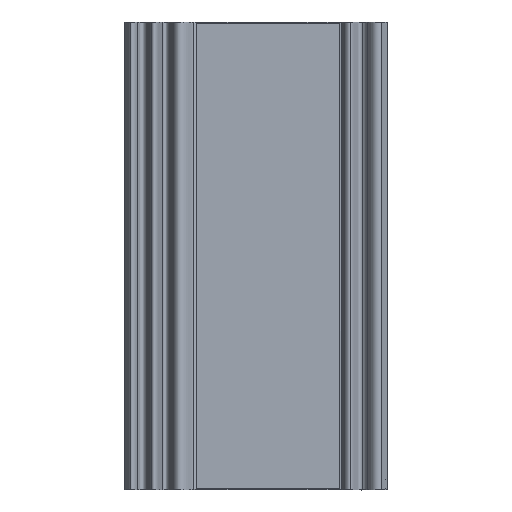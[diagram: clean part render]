
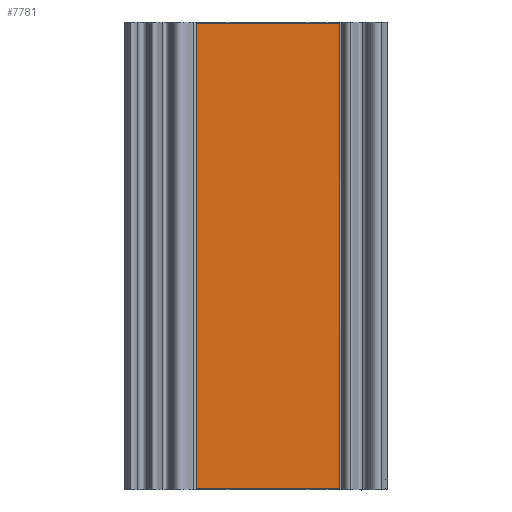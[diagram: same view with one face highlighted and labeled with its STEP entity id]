
A CAD part, top view. The second image highlights one B-rep face of the part: STEP entity #7781.
In plain terms, the highlighted planar face has unit normal (0, 0, 1).
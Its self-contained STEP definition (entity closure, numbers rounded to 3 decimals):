
#375 = EDGE_CURVE ( 'NONE', #839, #5362, #810, .T. ) ;
#528 = CARTESIAN_POINT ( 'NONE',  ( -300.001, 1960., 10. ) ) ;
#747 = LINE ( 'NONE', #2779, #2360 ) ;
#810 = LINE ( 'NONE', #3402, #5863 ) ;
#839 = VERTEX_POINT ( 'NONE', #4646 ) ;
#880 = CARTESIAN_POINT ( 'NONE',  ( -300.001, 1954., 10. ) ) ;
#1004 = DIRECTION ( 'NONE',  ( 1., 0., 0. ) ) ;
#1350 = EDGE_CURVE ( 'NONE', #839, #7157, #4858, .T. ) ;
#1413 = AXIS2_PLACEMENT_3D ( 'NONE', #528, #5705, #3836 ) ;
#1621 = FACE_OUTER_BOUND ( 'NONE', #2676, .T. ) ;
#1744 = CARTESIAN_POINT ( 'NONE',  ( 299.999, 1960., 10. ) ) ;
#2360 = VECTOR ( 'NONE', #5368, 1000. ) ;
#2676 = EDGE_LOOP ( 'NONE', ( #4066, #7390, #3374, #7857 ) ) ;
#2766 = DIRECTION ( 'NONE',  ( 0., -1., 0. ) ) ;
#2779 = CARTESIAN_POINT ( 'NONE',  ( -300.001, 6., 10. ) ) ;
#3263 = CARTESIAN_POINT ( 'NONE',  ( 299.999, 6., 10. ) ) ;
#3374 = ORIENTED_EDGE ( 'NONE', *, *, #5666, .F. ) ;
#3402 = CARTESIAN_POINT ( 'NONE',  ( -300.001, 1960., 10. ) ) ;
#3700 = VECTOR ( 'NONE', #1004, 1000. ) ;
#3836 = DIRECTION ( 'NONE',  ( -1., 0., 0. ) ) ;
#4066 = ORIENTED_EDGE ( 'NONE', *, *, #375, .T. ) ;
#4330 = VERTEX_POINT ( 'NONE', #3263 ) ;
#4339 = LINE ( 'NONE', #1744, #8052 ) ;
#4646 = CARTESIAN_POINT ( 'NONE',  ( -300.001, 1954., 10. ) ) ;
#4858 = LINE ( 'NONE', #880, #3700 ) ;
#4927 = DIRECTION ( 'NONE',  ( 0., -1., 0. ) ) ;
#5362 = VERTEX_POINT ( 'NONE', #5628 ) ;
#5368 = DIRECTION ( 'NONE',  ( -1., 0., 0. ) ) ;
#5628 = CARTESIAN_POINT ( 'NONE',  ( -300.001, 6., 10. ) ) ;
#5666 = EDGE_CURVE ( 'NONE', #7157, #4330, #4339, .T. ) ;
#5705 = DIRECTION ( 'NONE',  ( 0., 0., -1. ) ) ;
#5863 = VECTOR ( 'NONE', #2766, 1000. ) ;
#7081 = CARTESIAN_POINT ( 'NONE',  ( 299.999, 1954., 10. ) ) ;
#7157 = VERTEX_POINT ( 'NONE', #7081 ) ;
#7390 = ORIENTED_EDGE ( 'NONE', *, *, #7414, .F. ) ;
#7414 = EDGE_CURVE ( 'NONE', #4330, #5362, #747, .T. ) ;
#7781 = ADVANCED_FACE ( 'NONE', ( #1621 ), #8386, .F. ) ;
#7857 = ORIENTED_EDGE ( 'NONE', *, *, #1350, .F. ) ;
#8052 = VECTOR ( 'NONE', #4927, 1000. ) ;
#8386 = PLANE ( 'NONE',  #1413 ) ;
